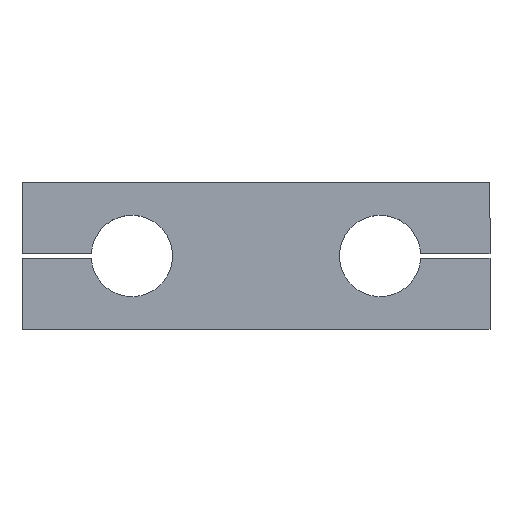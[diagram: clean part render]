
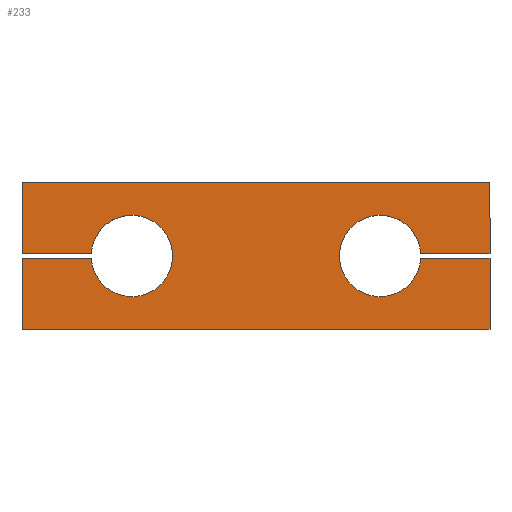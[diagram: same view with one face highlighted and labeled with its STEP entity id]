
A CAD part, top view. The second image highlights one B-rep face of the part: STEP entity #233.
In plain terms, the highlighted planar face has unit normal (0, 0, 1).
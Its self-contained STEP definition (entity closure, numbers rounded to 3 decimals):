
#8 = VECTOR ( 'NONE', #904, 1000. ) ;
#9 = VECTOR ( 'NONE', #1236, 1000. ) ;
#10 = LINE ( 'NONE', #917, #941 ) ;
#25 = ORIENTED_EDGE ( 'NONE', *, *, #1192, .F. ) ;
#26 = EDGE_CURVE ( 'NONE', #297, #242, #181, .T. ) ;
#31 = CARTESIAN_POINT ( 'NONE',  ( -115., -1.075, 15. ) ) ;
#65 = CARTESIAN_POINT ( 'NONE',  ( -115., 36., 15. ) ) ;
#82 = VERTEX_POINT ( 'NONE', #1112 ) ;
#84 = CARTESIAN_POINT ( 'NONE',  ( 115., 36., 15. ) ) ;
#90 = ORIENTED_EDGE ( 'NONE', *, *, #257, .F. ) ;
#94 = DIRECTION ( 'NONE',  ( 1., 0., 0. ) ) ;
#101 = DIRECTION ( 'NONE',  ( 0., 0., 1. ) ) ;
#102 = LINE ( 'NONE', #1210, #9 ) ;
#126 = EDGE_CURVE ( 'NONE', #242, #541, #468, .T. ) ;
#135 = CARTESIAN_POINT ( 'NONE',  ( -61., 0., 15. ) ) ;
#157 = DIRECTION ( 'NONE',  ( -1., 0., 0. ) ) ;
#172 = AXIS2_PLACEMENT_3D ( 'NONE', #767, #1171, #463 ) ;
#181 = LINE ( 'NONE', #1008, #301 ) ;
#182 = CARTESIAN_POINT ( 'NONE',  ( -115., 1.075, 15. ) ) ;
#183 = ORIENTED_EDGE ( 'NONE', *, *, #1278, .T. ) ;
#189 = EDGE_CURVE ( 'NONE', #1001, #641, #10, .T. ) ;
#195 = DIRECTION ( 'NONE',  ( -1., 0., 0. ) ) ;
#221 = CARTESIAN_POINT ( 'NONE',  ( 61., 0., 15. ) ) ;
#229 = VERTEX_POINT ( 'NONE', #31 ) ;
#233 = ADVANCED_FACE ( 'NONE', ( #1166 ), #1277, .T. ) ;
#242 = VERTEX_POINT ( 'NONE', #1270 ) ;
#244 = DIRECTION ( 'NONE',  ( 0., 0., 1. ) ) ;
#251 = ORIENTED_EDGE ( 'NONE', *, *, #632, .F. ) ;
#257 = EDGE_CURVE ( 'NONE', #1228, #547, #323, .T. ) ;
#285 = CARTESIAN_POINT ( 'NONE',  ( -80.971, -1.075, 15. ) ) ;
#286 = CARTESIAN_POINT ( 'NONE',  ( -115., -36., 15. ) ) ;
#297 = VERTEX_POINT ( 'NONE', #661 ) ;
#301 = VECTOR ( 'NONE', #195, 1000. ) ;
#303 = AXIS2_PLACEMENT_3D ( 'NONE', #221, #101, #94 ) ;
#315 = DIRECTION ( 'NONE',  ( 0., 1., 0. ) ) ;
#317 = VECTOR ( 'NONE', #784, 1000. ) ;
#319 = VECTOR ( 'NONE', #315, 1000. ) ;
#323 = CIRCLE ( 'NONE', #407, 20. ) ;
#372 = VERTEX_POINT ( 'NONE', #1255 ) ;
#390 = DIRECTION ( 'NONE',  ( 1., 0., 0. ) ) ;
#406 = DIRECTION ( 'NONE',  ( 0., -1., 0. ) ) ;
#407 = AXIS2_PLACEMENT_3D ( 'NONE', #135, #244, #451 ) ;
#451 = DIRECTION ( 'NONE',  ( 1., 0., 0. ) ) ;
#463 = DIRECTION ( 'NONE',  ( 1., 0., 0. ) ) ;
#468 = CIRCLE ( 'NONE', #303, 20. ) ;
#541 = VERTEX_POINT ( 'NONE', #951 ) ;
#547 = VERTEX_POINT ( 'NONE', #558 ) ;
#558 = CARTESIAN_POINT ( 'NONE',  ( -41., 0., 15. ) ) ;
#584 = ORIENTED_EDGE ( 'NONE', *, *, #781, .T. ) ;
#585 = LINE ( 'NONE', #1301, #317 ) ;
#599 = LINE ( 'NONE', #84, #8 ) ;
#632 = EDGE_CURVE ( 'NONE', #547, #1094, #752, .T. ) ;
#641 = VERTEX_POINT ( 'NONE', #182 ) ;
#661 = CARTESIAN_POINT ( 'NONE',  ( 115., 1.075, 15. ) ) ;
#691 = CARTESIAN_POINT ( 'NONE',  ( 60., -1.075, 15. ) ) ;
#714 = DIRECTION ( 'NONE',  ( 0., -1., 0. ) ) ;
#729 = ORIENTED_EDGE ( 'NONE', *, *, #189, .T. ) ;
#732 = AXIS2_PLACEMENT_3D ( 'NONE', #1263, #867, #1250 ) ;
#744 = VECTOR ( 'NONE', #714, 1000. ) ;
#749 = VECTOR ( 'NONE', #892, 1000. ) ;
#752 = CIRCLE ( 'NONE', #172, 20. ) ;
#767 = CARTESIAN_POINT ( 'NONE',  ( -61., 0., 15. ) ) ;
#781 = EDGE_CURVE ( 'NONE', #82, #372, #932, .T. ) ;
#784 = DIRECTION ( 'NONE',  ( -1., 0., 0. ) ) ;
#797 = ORIENTED_EDGE ( 'NONE', *, *, #126, .F. ) ;
#807 = LINE ( 'NONE', #691, #749 ) ;
#809 = ORIENTED_EDGE ( 'NONE', *, *, #1027, .T. ) ;
#810 = EDGE_CURVE ( 'NONE', #229, #1228, #102, .T. ) ;
#836 = EDGE_CURVE ( 'NONE', #297, #859, #1131, .T. ) ;
#859 = VERTEX_POINT ( 'NONE', #1165 ) ;
#867 = DIRECTION ( 'NONE',  ( 0., 0., 1. ) ) ;
#870 = ORIENTED_EDGE ( 'NONE', *, *, #1149, .F. ) ;
#875 = VECTOR ( 'NONE', #390, 1000. ) ;
#890 = ORIENTED_EDGE ( 'NONE', *, *, #810, .F. ) ;
#892 = DIRECTION ( 'NONE',  ( 1., 0., 0. ) ) ;
#904 = DIRECTION ( 'NONE',  ( 0., 1., 0. ) ) ;
#917 = CARTESIAN_POINT ( 'NONE',  ( -115., 36., 15. ) ) ;
#932 = LINE ( 'NONE', #286, #875 ) ;
#941 = VECTOR ( 'NONE', #406, 1000. ) ;
#951 = CARTESIAN_POINT ( 'NONE',  ( 80.971, -1.075, 15. ) ) ;
#967 = LINE ( 'NONE', #1292, #1009 ) ;
#1001 = VERTEX_POINT ( 'NONE', #1184 ) ;
#1008 = CARTESIAN_POINT ( 'NONE',  ( 60., 1.075, 15. ) ) ;
#1009 = VECTOR ( 'NONE', #157, 1000. ) ;
#1017 = EDGE_LOOP ( 'NONE', ( #25, #251, #90, #890, #1085, #584, #183, #870, #797, #1138, #1305, #809, #729 ) ) ;
#1027 = EDGE_CURVE ( 'NONE', #859, #1001, #967, .T. ) ;
#1085 = ORIENTED_EDGE ( 'NONE', *, *, #1178, .T. ) ;
#1094 = VERTEX_POINT ( 'NONE', #1267 ) ;
#1109 = CARTESIAN_POINT ( 'NONE',  ( 115., 36., 15. ) ) ;
#1112 = CARTESIAN_POINT ( 'NONE',  ( -115., -36., 15. ) ) ;
#1131 = LINE ( 'NONE', #1109, #319 ) ;
#1138 = ORIENTED_EDGE ( 'NONE', *, *, #26, .F. ) ;
#1149 = EDGE_CURVE ( 'NONE', #541, #1220, #807, .T. ) ;
#1165 = CARTESIAN_POINT ( 'NONE',  ( 115., 36., 15. ) ) ;
#1166 = FACE_OUTER_BOUND ( 'NONE', #1017, .T. ) ;
#1171 = DIRECTION ( 'NONE',  ( 0., 0., 1. ) ) ;
#1178 = EDGE_CURVE ( 'NONE', #229, #82, #1209, .T. ) ;
#1184 = CARTESIAN_POINT ( 'NONE',  ( -115., 36., 15. ) ) ;
#1192 = EDGE_CURVE ( 'NONE', #1094, #641, #585, .T. ) ;
#1209 = LINE ( 'NONE', #65, #744 ) ;
#1210 = CARTESIAN_POINT ( 'NONE',  ( -115., -1.075, 15. ) ) ;
#1220 = VERTEX_POINT ( 'NONE', #1306 ) ;
#1228 = VERTEX_POINT ( 'NONE', #285 ) ;
#1236 = DIRECTION ( 'NONE',  ( 1., 0., 0. ) ) ;
#1250 = DIRECTION ( 'NONE',  ( 1., 0., 0. ) ) ;
#1255 = CARTESIAN_POINT ( 'NONE',  ( 115., -36., 15. ) ) ;
#1263 = CARTESIAN_POINT ( 'NONE',  ( 0., 0., 15. ) ) ;
#1267 = CARTESIAN_POINT ( 'NONE',  ( -80.971, 1.075, 15. ) ) ;
#1270 = CARTESIAN_POINT ( 'NONE',  ( 80.971, 1.075, 15. ) ) ;
#1277 = PLANE ( 'NONE',  #732 ) ;
#1278 = EDGE_CURVE ( 'NONE', #372, #1220, #599, .T. ) ;
#1292 = CARTESIAN_POINT ( 'NONE',  ( -115., 36., 15. ) ) ;
#1301 = CARTESIAN_POINT ( 'NONE',  ( -115., 1.075, 15. ) ) ;
#1305 = ORIENTED_EDGE ( 'NONE', *, *, #836, .T. ) ;
#1306 = CARTESIAN_POINT ( 'NONE',  ( 115., -1.075, 15. ) ) ;
